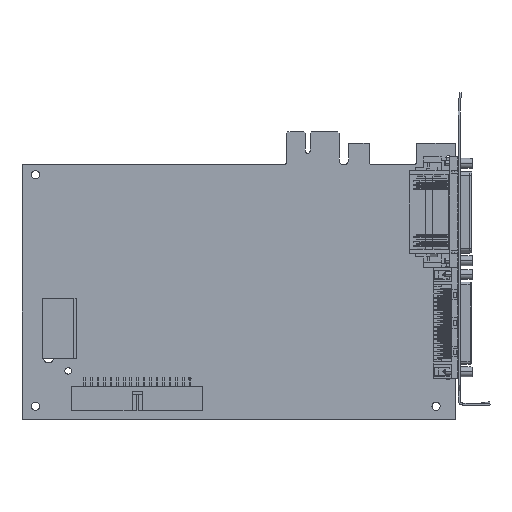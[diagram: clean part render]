
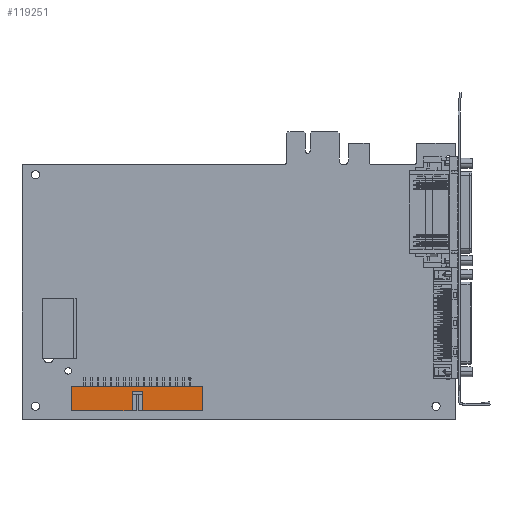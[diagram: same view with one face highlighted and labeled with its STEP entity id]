
A CAD part, top view. The second image highlights one B-rep face of the part: STEP entity #119251.
In plain terms, the highlighted planar face has unit normal (0, 0, 1).
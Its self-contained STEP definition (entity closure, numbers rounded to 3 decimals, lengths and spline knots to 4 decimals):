
#31580=DIRECTION('',(1.,0.,0.));
#31581=VECTOR('',#31580,2.);
#31582=CARTESIAN_POINT('',(-5.844,-3.701,0.4025));
#31583=LINE('',#31582,#31581);
#32132=DIRECTION('',(0.,1.,0.));
#32133=VECTOR('',#32132,0.37);
#32134=CARTESIAN_POINT('',(-3.844,-4.071,0.4025));
#32135=LINE('',#32134,#32133);
#32140=DIRECTION('',(1.,0.,0.));
#32141=VECTOR('',#32140,0.92);
#32142=CARTESIAN_POINT('',(-5.844,-4.071,0.4025));
#32143=LINE('',#32142,#32141);
#32172=DIRECTION('',(1.,0.,0.));
#32173=VECTOR('',#32172,0.92);
#32174=CARTESIAN_POINT('',(-4.764,-4.071,0.4025));
#32175=LINE('',#32174,#32173);
#32180=DIRECTION('',(0.,1.,0.));
#32181=VECTOR('',#32180,0.29);
#32182=CARTESIAN_POINT('',(-4.764,-4.071,0.4025));
#32183=LINE('',#32182,#32181);
#32184=DIRECTION('',(-1.,0.,0.));
#32185=VECTOR('',#32184,0.16);
#32186=CARTESIAN_POINT('',(-4.764,-3.781,0.4025));
#32187=LINE('',#32186,#32185);
#32188=DIRECTION('',(0.,1.,0.));
#32189=VECTOR('',#32188,0.29);
#32190=CARTESIAN_POINT('',(-4.924,-4.071,0.4025));
#32191=LINE('',#32190,#32189);
#32192=DIRECTION('',(0.,1.,0.));
#32193=VECTOR('',#32192,0.37);
#32194=CARTESIAN_POINT('',(-5.844,-4.071,0.4025));
#32195=LINE('',#32194,#32193);
#71497=CARTESIAN_POINT('',(-5.844,-3.701,0.4025));
#71498=CARTESIAN_POINT('',(-3.844,-3.701,0.4025));
#71499=VERTEX_POINT('',#71497);
#71500=VERTEX_POINT('',#71498);
#71501=CARTESIAN_POINT('',(-5.844,-4.071,0.4025));
#71502=VERTEX_POINT('',#71501);
#71503=CARTESIAN_POINT('',(-3.844,-4.071,0.4025));
#71504=VERTEX_POINT('',#71503);
#72406=CARTESIAN_POINT('',(-4.764,-4.071,0.4025));
#72408=VERTEX_POINT('',#72406);
#72410=CARTESIAN_POINT('',(-4.924,-4.071,0.4025));
#72412=VERTEX_POINT('',#72410);
#72413=CARTESIAN_POINT('',(-4.764,-3.781,0.4025));
#72414=VERTEX_POINT('',#72413);
#72415=CARTESIAN_POINT('',(-4.924,-3.781,0.4025));
#72416=VERTEX_POINT('',#72415);
#119233=CARTESIAN_POINT('',(-5.844,-4.071,0.4025));
#119234=DIRECTION('',(0.,0.,1.));
#119235=DIRECTION('',(1.,0.,0.));
#119236=AXIS2_PLACEMENT_3D('',#119233,#119234,#119235);
#119237=PLANE('',#119236);
#119239=ORIENTED_EDGE('',*,*,#119238,.T.);
#119241=ORIENTED_EDGE('',*,*,#119240,.T.);
#119243=ORIENTED_EDGE('',*,*,#119242,.F.);
#119244=ORIENTED_EDGE('',*,*,#119198,.F.);
#119245=ORIENTED_EDGE('',*,*,#119227,.T.);
#119246=ORIENTED_EDGE('',*,*,#118831,.T.);
#119247=ORIENTED_EDGE('',*,*,#119184,.F.);
#119248=ORIENTED_EDGE('',*,*,#119214,.F.);
#119249=EDGE_LOOP('',(#119239,#119241,#119243,#119244,#119245,#119246,#119247,
#119248));
#119250=FACE_OUTER_BOUND('',#119249,.F.);
#119251=ADVANCED_FACE('',(#119250),#119237,.T.);
#118831=EDGE_CURVE('',#71499,#71500,#31583,.T.);
#119184=EDGE_CURVE('',#71504,#71500,#32135,.T.);
#119198=EDGE_CURVE('',#71502,#72412,#32143,.T.);
#119214=EDGE_CURVE('',#72408,#71504,#32175,.T.);
#119227=EDGE_CURVE('',#71502,#71499,#32195,.T.);
#119238=EDGE_CURVE('',#72408,#72414,#32183,.T.);
#119240=EDGE_CURVE('',#72414,#72416,#32187,.T.);
#119242=EDGE_CURVE('',#72412,#72416,#32191,.T.);
